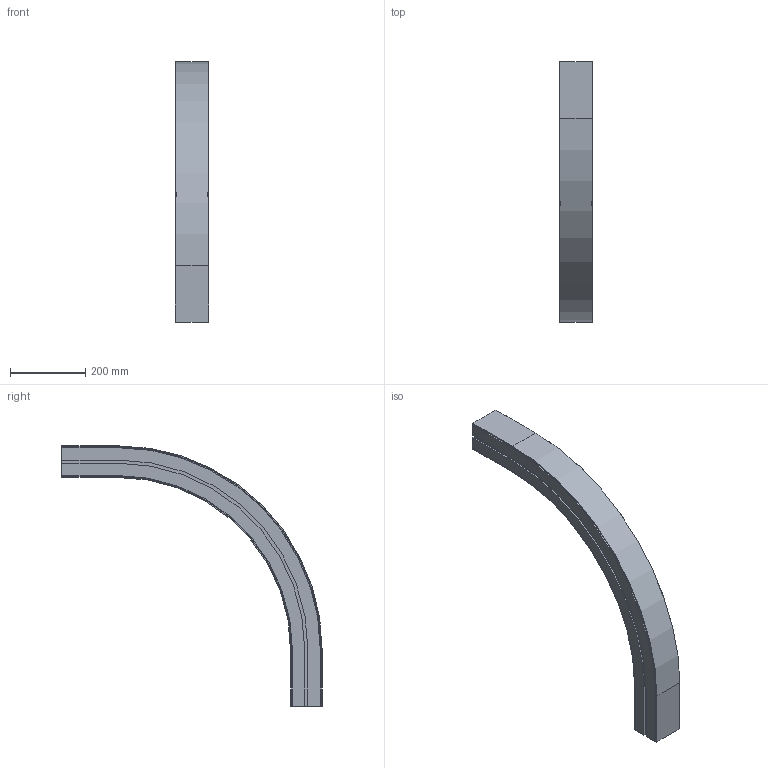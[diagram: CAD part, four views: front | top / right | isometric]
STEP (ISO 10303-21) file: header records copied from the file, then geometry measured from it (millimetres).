
FILE_DESCRIPTION (( 'STEP AP214' ), '1' );
FILE_NAME ('927765 CS090SL Verticale bochtsectie R500 90°.STEP', '2014-03-20T15:24:50', ( 'Beheerder' ), ( '' ), 'SwSTEP 2.0', 'SolidWorks 2012', '' );
FILE_SCHEMA (( 'AUTOMOTIVE_DESIGN' ));
Length unit declared in the file: millimetre
Products named in the file (1): 927765 CS090SL Verticale bochtsectie R500 90°
Bounding box: 90 x 692 x 692 mm (x, y, z)
Volume: 7765622.3 mm3; surface area: 507036.4 mm2
Topology: 1 solids, 1 shells, 98 faces, 272 edges, 176 vertices
Faces by surface type: plane 72, cylinder 18, cone 8
Entity records: 3126 total; most frequent: CARTESIAN_POINT 547, ORIENTED_EDGE 544, DIRECTION 514, EDGE_CURVE 272, VECTOR 228, LINE 228, VERTEX_POINT 176, AXIS2_PLACEMENT_3D 143
